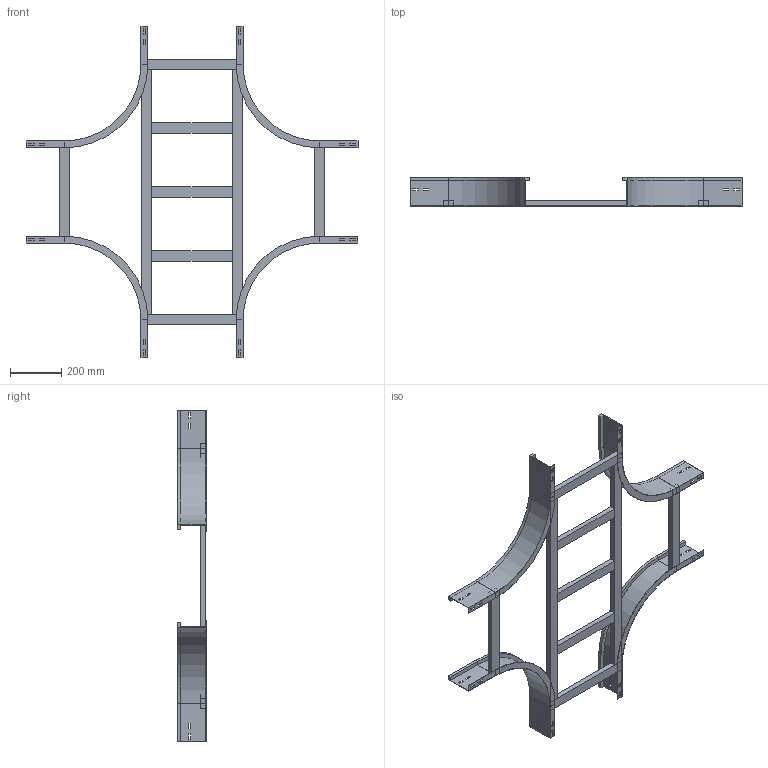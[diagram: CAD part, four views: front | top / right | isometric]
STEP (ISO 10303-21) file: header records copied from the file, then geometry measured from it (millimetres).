
FILE_DESCRIPTION (( 'STEP AP214' ), '1' );
FILE_NAME ('A2_17B3J400.step', '2025-02-21T15:56:43', ( '' ), ( '' ), 'SwSTEP 2.0', 'SolidWorks 2023', '' );
FILE_SCHEMA (( 'AUTOMOTIVE_DESIGN' ));
Length unit declared in the file: millimetre
Products named in the file (5): TRAVERSINO_400; A2_TRAVERSINO_LONG._R300+400; A2_17B3J400; TRAVERSINO_INTERMEDIO_R300+400; A2_LONGH.INTERNO 90°_H112.5_R300
Assembly tree (13 placements, depth 2):
  A2_17B3J400
    A2_LONGH.INTERNO 90°_H112.5_R300  x4
    TRAVERSINO_400  x4
    A2_TRAVERSINO_LONG._R300+400  x2
    TRAVERSINO_INTERMEDIO_R300+400  x3
Bounding box: 1300 x 112.5 x 1300 mm (x, y, z)
Volume: 5051731 mm3; surface area: 1519326.5 mm2
Topology: 13 solids, 13 shells, 286 faces, 716 edges, 456 vertices
Faces by surface type: plane 270, cylinder 16
Entity records: 2450 total; most frequent: CARTESIAN_POINT 400, DIRECTION 380, ORIENTED_EDGE 376, EDGE_CURVE 188, LINE 180, VECTOR 180, VERTEX_POINT 120, AXIS2_PLACEMENT_3D 100
